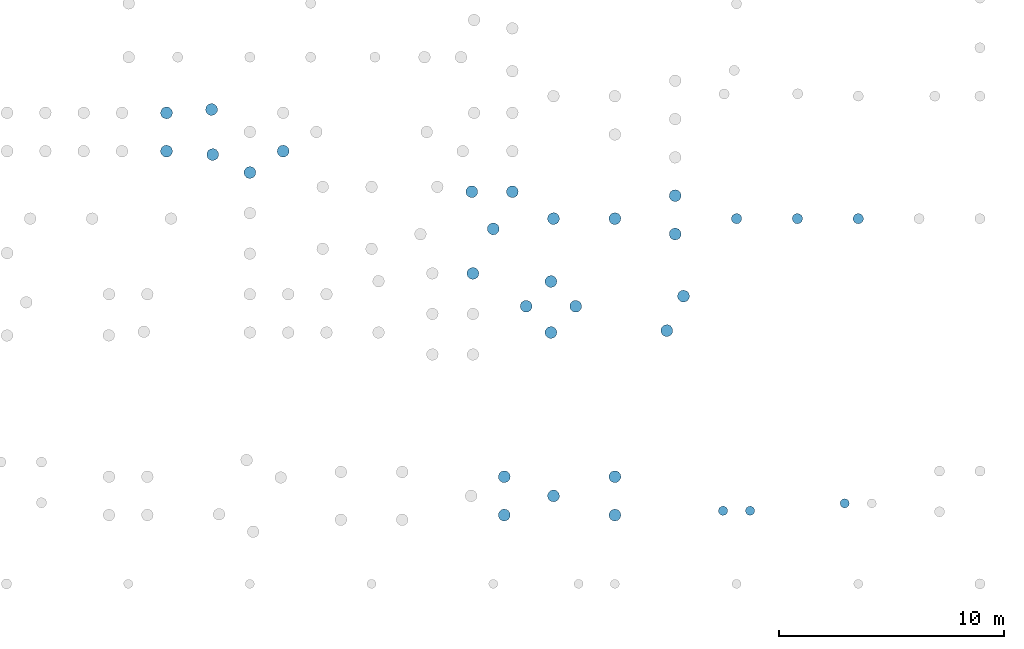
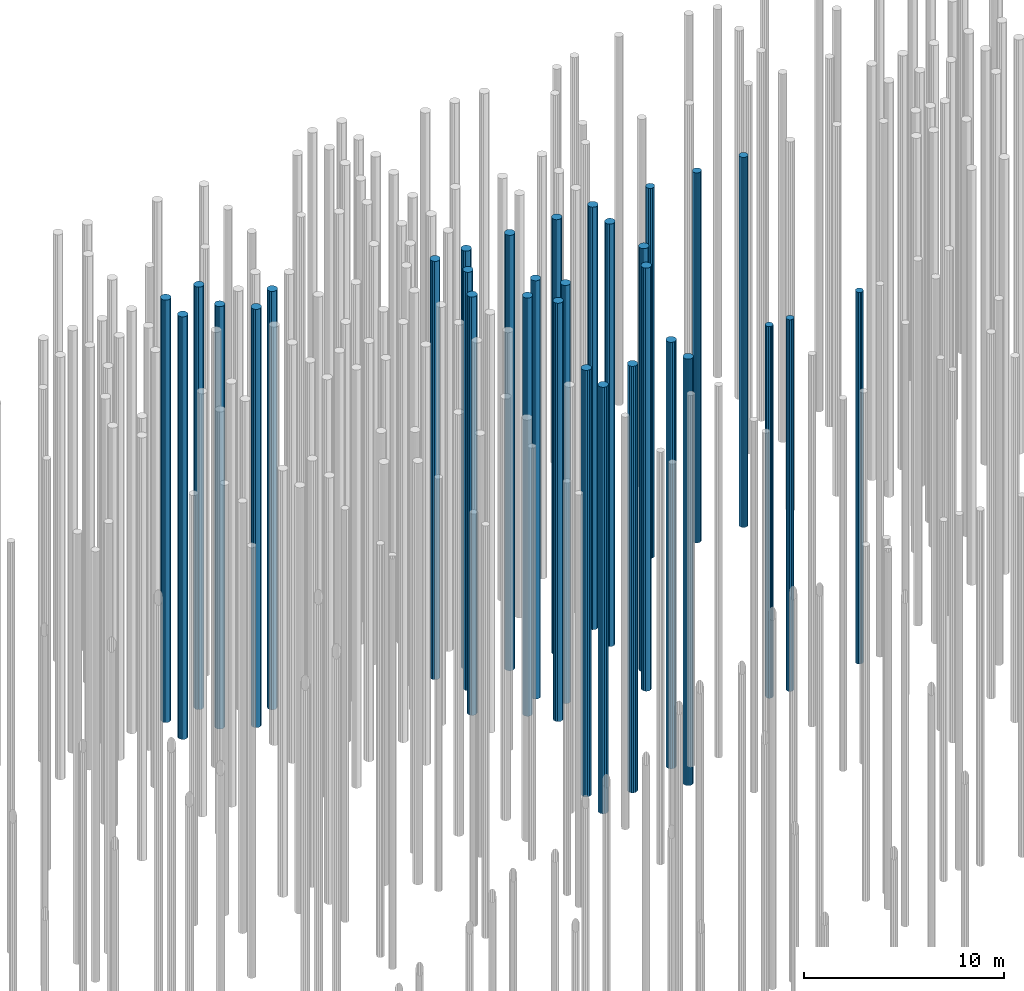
# One storey, part 8 of 20: 31 piles.
"""IFC2X3 building model written with IfcOpenShell, lengths in millimetres."""

import ifcopenshell
import ifcopenshell.guid

model = None  # the IFC model being written
_history = None  # IfcOwnerHistory: only IFC2X3 demands one
_inside = {}  # id of a spatial element -> (the spatial element, [elements in it])
_under = {}  # id of a project, library or spatial element -> (it, [spatial elements below it])
_declared = {}  # id of a project -> (the project, [libraries it declares])
_typed = {}  # id of a type object -> (the type object, [elements of that type])
_made_of = {}  # id of a material, layer set ... -> (it, [elements and type objects made of it])


def new_model(schema):
    """Start an empty IFC model of exactly this schema.

    Asked for "IFC4X3", IfcOpenShell would pick the latest addendum, in which some entities
    have other attributes; the version numbers below select the first issue.
    IFC2X3 requires an IfcOwnerHistory on every rooted entity: one is made here for all.
    """
    global model, _history
    if schema == "IFC4X3":
        model = ifcopenshell.file(schema_version=(4, 3, 0, 0))
    else:
        model = ifcopenshell.file(schema=schema)
    _inside.clear()
    _under.clear()
    _declared.clear()
    _typed.clear()
    _made_of.clear()
    _history = None
    if model.schema == "IFC2X3":
        org = make("IfcOrganization", Name="unknown")
        user = make(
            "IfcPersonAndOrganization",
            ThePerson=make("IfcPerson", FamilyName="unknown"),
            TheOrganization=org,
        )
        app = make(
            "IfcApplication",
            ApplicationDeveloper=org,
            Version="unknown",
            ApplicationFullName="unknown",
            ApplicationIdentifier="unknown",
        )
        _history = make(
            "IfcOwnerHistory",
            OwningUser=user,
            OwningApplication=app,
            ChangeAction="ADDED",
            CreationDate=0,
        )
    return model


def make(cls, **values):
    """One entity of the class cls with the attributes given. An attribute that is None is left unset."""
    return model.create_entity(
        cls, **{name: value for name, value in values.items() if value is not None}
    )


def entity(cls, *values):
    """Any entity or typed value of the class cls, its attributes in the order of the schema. None: left unset."""
    e = model.create_entity(cls)
    for i, value in enumerate(values):
        if value is not None:
            e[i] = value
    return e


def rooted(cls, **values):
    """An entity with a GlobalId (a new one), such as an element, a storey or a relation."""
    return make(cls, GlobalId=ifcopenshell.guid.new(), OwnerHistory=_history, **values)


def si_unit(unit_type, name, prefix=None):
    """IfcSIUnit, for example si_unit("LENGTHUNIT", "METRE", prefix="MILLI")."""
    return make("IfcSIUnit", UnitType=unit_type, Prefix=prefix, Name=name)


def converted_unit(unit_type, name, factor, base, dimensions=None, offset=None):
    """IfcConversionBasedUnit, such as the inch: factor (a typed value) times the base unit."""
    return make(
        "IfcConversionBasedUnit"
        if offset is None
        else "IfcConversionBasedUnitWithOffset",
        ConversionOffset=offset,
        Dimensions=None
        if dimensions is None
        else entity("IfcDimensionalExponents", *dimensions),
        UnitType=unit_type,
        Name=name,
        ConversionFactor=make(
            "IfcMeasureWithUnit", ValueComponent=factor, UnitComponent=base
        ),
    )


def derived_unit(unit_type, elements):
    """IfcDerivedUnit: a product of units, each with its exponent."""
    return make(
        "IfcDerivedUnit",
        Elements=[
            make("IfcDerivedUnitElement", Unit=unit, Exponent=power)
            for unit, power in elements
        ],
        UnitType=unit_type,
    )


def assignment(units):
    """IfcUnitAssignment: the units of a project."""
    return None if units is None else make("IfcUnitAssignment", Units=units)


def point(xyz):
    """IfcCartesianPoint."""
    return None if xyz is None else make("IfcCartesianPoint", Coordinates=xyz)


def direction(xyz):
    """IfcDirection."""
    return None if xyz is None else make("IfcDirection", DirectionRatios=xyz)


def frame(location, z_axis=None, x_axis=None):
    """IfcAxis2Placement3D, a coordinate frame: its origin and axes. An axis left out is left unset."""
    return make(
        "IfcAxis2Placement3D",
        Location=point(location),
        Axis=direction(z_axis),
        RefDirection=direction(x_axis),
    )


def origin():
    """The frame at (0, 0, 0) with its axes left unset."""
    return frame((0.0, 0.0, 0.0))


def place(relative_to, where):
    """IfcLocalPlacement: puts the frame where relative to a parent placement (None: the world)."""
    return make(
        "IfcLocalPlacement", PlacementRelTo=relative_to, RelativePlacement=where
    )


def context(
    kind, dimensions, precision=None, world=None, true_north=None, identifier=None
):
    """IfcGeometricRepresentationContext, for example the 3D "Model" context."""
    return make(
        "IfcGeometricRepresentationContext",
        ContextIdentifier=identifier,
        ContextType=kind,
        CoordinateSpaceDimension=dimensions,
        Precision=precision,
        WorldCoordinateSystem=world,
        TrueNorth=true_north,
    )


def subcontext(parent, identifier, kind, view, scale=None):
    """IfcGeometricRepresentationSubContext, for example "Body" below "Model"."""
    return make(
        "IfcGeometricRepresentationSubContext",
        ContextIdentifier=identifier,
        ContextType=kind,
        ParentContext=parent,
        TargetScale=scale,
        TargetView=view,
    )


def project(units=None, contexts=None):
    """IfcProject with its units and contexts."""
    return rooted(
        "IfcProject",
        Name="project",
        RepresentationContexts=contexts,
        UnitsInContext=assignment(units),
    )


def spatial(cls, under=None, at=None, **own):
    """A site, building, storey or space (cls), placed at a placement, below another one or the project."""
    s = rooted(cls, ObjectPlacement=at, **own)
    if under is not None:
        _under.setdefault(under.id(), (under, []))[1].append(s)
    return s


def polyline(points):
    """IfcPolyline through the points."""
    return make("IfcPolyline", Points=[point(p) for p in points])


def outline(outer, holes=None, kind="AREA"):
    """IfcArbitraryClosedProfileDef: a profile drawn as a closed curve; with holes, ...WithVoids."""
    if holes is None:
        return make("IfcArbitraryClosedProfileDef", ProfileType=kind, OuterCurve=outer)
    return make(
        "IfcArbitraryProfileDefWithVoids",
        ProfileType=kind,
        OuterCurve=outer,
        InnerCurves=holes,
    )


def extrude(swept, where, along, depth):
    """IfcExtrudedAreaSolid: the profile swept, set in the frame where, extruded along a direction by depth."""
    return make(
        "IfcExtrudedAreaSolid",
        SweptArea=swept,
        Position=where,
        ExtrudedDirection=direction(along),
        Depth=depth,
    )


def shape(context_of_items, identifier, shape_type, items):
    """IfcShapeRepresentation: the items that make up one representation, for example the "Body"."""
    return make(
        "IfcShapeRepresentation",
        ContextOfItems=context_of_items,
        RepresentationIdentifier=identifier,
        RepresentationType=shape_type,
        Items=items,
    )


def material(Name=None, Category=None):
    """IfcMaterial."""
    return make("IfcMaterial", Name=Name, Category=Category)


def made_of(thing, what):
    """Note that an element or type object is made of a material, layer set ...; save() writes the relation."""
    if what is not None:
        _made_of.setdefault(what.id(), (what, []))[1].append(thing)
    return thing


def element(
    cls,
    number,
    at=None,
    inside=None,
    cuts=None,
    type_object=None,
    material=None,
    context=None,
    identifier="Body",
    shape_type=None,
    held_by="IfcProductDefinitionShape",
    body=None,
    shapes=None,
    **own,
):
    """One element of the class cls, such as IfcWall. Its Tag is "e" and its number.

    at: its placement. inside: the storey or other place that contains it. cuts: it is an
    opening in that element (IfcRelVoidsElement). A single representation is given by context,
    identifier, shape_type and body (its items); several are given by shapes. held_by: the class
    of the entity that holds the representations. save() writes the other relations.
    """
    e = rooted(cls, Tag="e%d" % number, ObjectPlacement=at, **own)
    if body is not None:
        shapes = [shape(context, identifier, shape_type, body)]
    if shapes is not None:
        e.Representation = make(held_by, Representations=shapes)
    if inside is not None:
        _inside.setdefault(inside.id(), (inside, []))[1].append(e)
    if cuts is not None:
        rooted(
            "IfcRelVoidsElement", RelatingBuildingElement=cuts, RelatedOpeningElement=e
        )
    if type_object is not None:
        _typed.setdefault(type_object.id(), (type_object, []))[1].append(e)
    return made_of(e, material)


def aggregate(whole, parts):
    """IfcRelAggregates: a whole, such as a stair, and the parts it consists of."""
    return rooted("IfcRelAggregates", RelatingObject=whole, RelatedObjects=parts)


def save(model, path):
    """Write the relations noted so far, then the file.

    IfcRelAggregates (storeys below a building ...), IfcRelContainedInSpatialStructure (elements
    in a storey), IfcRelDefinesByType, IfcRelAssociatesMaterial and IfcRelDeclares: one each for
    every whole, place, type object, material and project.
    """
    for whole, parts in _under.values():
        aggregate(whole, parts)
    for where, things in _inside.values():
        rooted(
            "IfcRelContainedInSpatialStructure",
            RelatedElements=things,
            RelatingStructure=where,
        )
    for kind, things in _typed.values():
        rooted("IfcRelDefinesByType", RelatedObjects=things, RelatingType=kind)
    for what, things in _made_of.values():
        rooted("IfcRelAssociatesMaterial", RelatedObjects=things, RelatingMaterial=what)
    for by, libraries in _declared.values():
        rooted("IfcRelDeclares", RelatingContext=by, RelatedDefinitions=libraries)
    model.write(path)


model = new_model("IFC2X3")

# Units and contexts
model_context = context("Model", 3, precision=0.01, world=origin(), true_north=direction((6.12303176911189e-17, 1.0)))
body_context = subcontext(model_context, "Body", "Model", "MODEL_VIEW")
ifc_project = project(units=[si_unit("LENGTHUNIT", "METRE", prefix="MILLI"), si_unit("AREAUNIT", "SQUARE_METRE"), si_unit("VOLUMEUNIT", "CUBIC_METRE"), converted_unit("PLANEANGLEUNIT", "DEGREE", entity("IfcRatioMeasure", 0.0174532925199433), si_unit("PLANEANGLEUNIT", "RADIAN"), dimensions=[0, 0, 0, 0, 0, 0, 0]), si_unit("MASSUNIT", "GRAM", prefix="KILO"), derived_unit("MASSDENSITYUNIT", [(si_unit("MASSUNIT", "GRAM", prefix="KILO"), 1), (si_unit("LENGTHUNIT", "METRE"), -3)]), si_unit("TIMEUNIT", "SECOND"), si_unit("FREQUENCYUNIT", "HERTZ"), si_unit("THERMODYNAMICTEMPERATUREUNIT", "DEGREE_CELSIUS"), derived_unit("THERMALTRANSMITTANCEUNIT", [(si_unit("MASSUNIT", "GRAM", prefix="KILO"), 1), (si_unit("THERMODYNAMICTEMPERATUREUNIT", "KELVIN"), -1), (si_unit("TIMEUNIT", "SECOND"), -3)]), derived_unit("VOLUMETRICFLOWRATEUNIT", [(si_unit("LENGTHUNIT", "METRE"), 3), (si_unit("TIMEUNIT", "SECOND"), -1)]), si_unit("ELECTRICCURRENTUNIT", "AMPERE"), si_unit("ELECTRICVOLTAGEUNIT", "VOLT"), si_unit("POWERUNIT", "WATT"), si_unit("FORCEUNIT", "NEWTON", prefix="KILO"), si_unit("ILLUMINANCEUNIT", "LUX"), si_unit("LUMINOUSFLUXUNIT", "LUMEN"), si_unit("LUMINOUSINTENSITYUNIT", "CANDELA"), derived_unit("USERDEFINED", [(si_unit("MASSUNIT", "GRAM", prefix="KILO"), -1), (si_unit("LENGTHUNIT", "METRE"), -2), (si_unit("TIMEUNIT", "SECOND"), 3), (si_unit("LUMINOUSFLUXUNIT", "LUMEN"), 1)]), derived_unit("LINEARVELOCITYUNIT", [(si_unit("LENGTHUNIT", "METRE"), 1), (si_unit("TIMEUNIT", "SECOND"), -1)]), si_unit("PRESSUREUNIT", "PASCAL"), derived_unit("USERDEFINED", [(si_unit("LENGTHUNIT", "METRE"), -2), (si_unit("MASSUNIT", "GRAM", prefix="KILO"), 1), (si_unit("TIMEUNIT", "SECOND"), -2)])], contexts=[model_context])

# Site, building, storey
site_placement = place(None, origin())
site = spatial("IfcSite", under=ifc_project, at=site_placement, Name="Default", CompositionType="ELEMENT")
building_placement = place(site_placement, origin())
building = spatial("IfcBuilding", under=site, at=building_placement, Name="niet gebruiken", CompositionType="ELEMENT")
storey_placement = place(building_placement, frame((0.0, 0.0, -4000.0)))
storey = spatial("IfcBuildingStorey", under=building, at=storey_placement, Name="Level t.b.v. palenplan", CompositionType="ELEMENT", Elevation=-4000.0)

# Piles
ifc_material = material(Name="NLRS_f2_beton ihwg")
pile_1_placement = place(storey_placement, origin())
element("IfcPile", 1, at=pile_1_placement, inside=storey, material=ifc_material, Name="NLRS_17.12_SFO_TLB_funderingspaal grondverdringend_gen:Fundex_r530/650", ObjectType="NLRS_17.12_SFO_TLB_funderingspaal grondverdringend_gen:Fundex_r530/650", context=body_context, shape_type="SweptSolid", body=[
    extrude(outline(polyline([(-55.096598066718, -259.209114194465), (55.0965980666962, -259.209114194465), (155.763091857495, -214.389503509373), (229.496732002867, -132.50000000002), (263.548302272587, -27.7000427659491), (252.029976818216, 81.8895035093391), (196.933378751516, 177.31961068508), (107.785210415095, 242.089546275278), (55.0965980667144, 259.209114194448), (-55.0965980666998, 259.209114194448), (-155.763091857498, 214.389503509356), (-229.496732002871, 132.500000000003), (-263.54830227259, 27.7000427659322), (-252.02997681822, -81.889503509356), (-196.933378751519, -177.319610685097), (-107.785210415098, -242.089546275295), (-55.096598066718, -259.209114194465)])), frame((51275.0, 28881.0, -23600.0), z_axis=(0.0, 0.0, 1.0), x_axis=(0.207911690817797, -0.978147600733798, 0.0)), (0.0, 0.0, 1.0), 26070.0),
])
pile_2_placement = place(storey_placement, origin())
element("IfcPile", 2, at=pile_2_placement, inside=storey, material=ifc_material, Name="NLRS_17.12_SFO_TLB_funderingspaal grondverdringend_gen:Fundex_r530/650", ObjectType="NLRS_17.12_SFO_TLB_funderingspaal grondverdringend_gen:Fundex_r530/650", context=body_context, shape_type="SweptSolid", body=[
    extrude(outline(polyline([(-55.0965980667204, -259.209114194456), (55.0965980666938, -259.209114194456), (155.763091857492, -214.389503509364), (229.496732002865, -132.50000000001), (263.548302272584, -27.7000427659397), (252.029976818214, 81.8895035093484), (196.933378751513, 177.31961068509), (107.785210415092, 242.089546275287), (55.0965980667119, 259.209114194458), (-55.0965980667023, 259.209114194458), (-155.763091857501, 214.389503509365), (-229.496732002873, 132.500000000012), (-263.548302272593, 27.7000427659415), (-252.029976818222, -81.8895035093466), (-196.933378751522, -177.319610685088), (-107.785210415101, -242.089546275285), (-55.0965980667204, -259.209114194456)])), frame((54000.0, 29731.0, -23600.0), z_axis=(0.0, 0.0, 1.0), x_axis=(0.207911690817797, -0.978147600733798, 0.0)), (0.0, 0.0, 1.0), 26070.0),
])
pile_3_placement = place(storey_placement, origin())
element("IfcPile", 3, at=pile_3_placement, inside=storey, material=ifc_material, Name="NLRS_17.12_SFO_TLB_funderingspaal grondverdringend_gen:Fundex_r530/650", ObjectType="NLRS_17.12_SFO_TLB_funderingspaal grondverdringend_gen:Fundex_r530/650", context=body_context, shape_type="SweptSolid", body=[
    extrude(outline(polyline([(-55.0965980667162, -259.209114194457), (55.096598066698, -259.209114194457), (155.763091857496, -214.389503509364), (229.496732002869, -132.500000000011), (263.548302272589, -27.7000427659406), (252.029976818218, 81.8895035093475), (196.933378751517, 177.319610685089), (107.785210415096, 242.089546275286), (55.0965980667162, 259.209114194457), (-55.096598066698, 259.209114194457), (-155.763091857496, 214.389503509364), (-229.496732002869, 132.500000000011), (-263.548302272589, 27.7000427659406), (-252.029976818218, -81.8895035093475), (-196.933378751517, -177.319610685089), (-107.785210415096, -242.089546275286), (-55.0965980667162, -259.209114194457)])), frame((54000.0, 28031.0, -23600.0), z_axis=(0.0, 0.0, 1.0), x_axis=(0.207911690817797, -0.978147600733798, 0.0)), (0.0, 0.0, 1.0), 26070.0),
])
pile_4_placement = place(storey_placement, origin())
element("IfcPile", 4, at=pile_4_placement, inside=storey, material=ifc_material, Name="NLRS_17.12_SFO_TLB_funderingspaal grondverdringend_gen:Fundex_r530/650", ObjectType="NLRS_17.12_SFO_TLB_funderingspaal grondverdringend_gen:Fundex_r530/650", context=body_context, shape_type="SweptSolid", body=[
    extrude(outline(polyline([(-55.0965980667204, -259.209114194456), (55.0965980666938, -259.209114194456), (155.763091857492, -214.389503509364), (229.496732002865, -132.50000000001), (263.548302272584, -27.7000427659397), (252.029976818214, 81.8895035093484), (196.933378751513, 177.31961068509), (107.785210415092, 242.089546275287), (55.0965980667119, 259.209114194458), (-55.0965980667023, 259.209114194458), (-155.763091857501, 214.389503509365), (-229.496732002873, 132.500000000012), (-263.548302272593, 27.7000427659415), (-252.029976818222, -81.8895035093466), (-196.933378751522, -177.319610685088), (-107.785210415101, -242.089546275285), (-55.0965980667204, -259.209114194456)])), frame((49090.0, 28031.0, -23600.0), z_axis=(0.0, 0.0, 1.0), x_axis=(0.207911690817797, -0.978147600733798, 0.0)), (0.0, 0.0, 1.0), 26070.0),
])
pile_5_placement = place(storey_placement, origin())
element("IfcPile", 5, at=pile_5_placement, inside=storey, material=ifc_material, Name="NLRS_17.12_SFO_TLB_funderingspaal grondverdringend_gen:Fundex_r530/650", ObjectType="NLRS_17.12_SFO_TLB_funderingspaal grondverdringend_gen:Fundex_r530/650", context=body_context, shape_type="SweptSolid", body=[
    extrude(outline(polyline([(-55.0965980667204, -259.209114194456), (55.0965980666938, -259.209114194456), (155.763091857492, -214.389503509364), (229.496732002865, -132.50000000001), (263.548302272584, -27.7000427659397), (252.029976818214, 81.8895035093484), (196.933378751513, 177.31961068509), (107.785210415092, 242.089546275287), (55.0965980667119, 259.209114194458), (-55.0965980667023, 259.209114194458), (-155.763091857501, 214.389503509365), (-229.496732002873, 132.500000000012), (-263.548302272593, 27.7000427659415), (-252.029976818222, -81.8895035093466), (-196.933378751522, -177.319610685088), (-107.785210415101, -242.089546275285), (-55.0965980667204, -259.209114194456)])), frame((49091.0, 29731.0, -23600.0), z_axis=(0.0, 0.0, 1.0), x_axis=(0.207911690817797, -0.978147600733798, 0.0)), (0.0, 0.0, 1.0), 26070.0),
])
pile_6_placement = place(storey_placement, origin())
element("IfcPile", 6, at=pile_6_placement, inside=storey, material=ifc_material, Name="NLRS_17.12_SFO_TLB_funderingspaal grondverdringend_gen:Fundex_r530/650", ObjectType="NLRS_17.12_SFO_TLB_funderingspaal grondverdringend_gen:Fundex_r530/650", context=body_context, shape_type="SweptSolid", body=[
    extrude(outline(polyline([(-55.0965980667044, -259.20911419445), (55.0965980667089, -259.20911419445), (155.763091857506, -214.38950350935), (229.496732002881, -132.499999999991), (263.548302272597, -27.7000427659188), (252.029976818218, 81.8895035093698), (196.933378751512, 177.319610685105), (107.785210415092, 242.089546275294), (55.096598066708, 259.209114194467), (-55.0965980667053, 259.209114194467), (-155.763091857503, 214.389503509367), (-229.496732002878, 132.500000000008), (-263.548302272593, 27.7000427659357), (-252.029976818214, -81.8895035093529), (-196.933378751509, -177.319610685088), (-107.78521041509, -242.089546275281), (-55.0965980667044, -259.20911419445)])), frame((56305.0, 36216.0, -23600.0), z_axis=(0.0, 0.0, 1.0), x_axis=(-0.978147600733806, -0.207911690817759, 0.0)), (0.0, 0.0, 1.0), 25870.0),
])
pile_7_placement = place(storey_placement, origin())
element("IfcPile", 7, at=pile_7_placement, inside=storey, material=ifc_material, Name="NLRS_17.12_SFO_TLB_funderingspaal grondverdringend_gen:Fundex_r530/650", ObjectType="NLRS_17.12_SFO_TLB_funderingspaal grondverdringend_gen:Fundex_r530/650", context=body_context, shape_type="SweptSolid", body=[
    extrude(outline(polyline([(-55.0965980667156, -259.209114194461), (55.0965980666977, -259.209114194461), (155.763091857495, -214.389503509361), (229.49673200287, -132.500000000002), (263.548302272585, -27.7000427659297), (252.029976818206, 81.8895035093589), (196.933378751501, 177.319610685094), (107.785210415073, 242.089546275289), (55.0965980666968, 259.209114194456), (-55.0965980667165, 259.209114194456), (-155.763091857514, 214.389503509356), (-229.496732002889, 132.499999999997), (-263.548302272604, 27.7000427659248), (-252.029976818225, -81.8895035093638), (-196.93337875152, -177.319610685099), (-107.785210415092, -242.089546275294), (-55.0965980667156, -259.209114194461)])), frame((57045.0, 37746.0, -23600.0), z_axis=(0.0, 0.0, 1.0), x_axis=(-0.978147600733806, -0.207911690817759, 0.0)), (0.0, 0.0, 1.0), 25870.0),
])
pile_8_placement = place(storey_placement, origin())
element("IfcPile", 8, at=pile_8_placement, inside=storey, material=ifc_material, Name="NLRS_17.12_SFO_TLB_funderingspaal grondverdringend_gen:Fundex_r530/650", ObjectType="NLRS_17.12_SFO_TLB_funderingspaal grondverdringend_gen:Fundex_r530/650", context=body_context, shape_type="SweptSolid", body=[
    extrude(outline(polyline([(-55.0965980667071, -259.209114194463), (55.0965980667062, -259.209114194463), (155.763091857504, -214.389503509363), (229.496732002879, -132.500000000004), (263.548302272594, -27.7000427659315), (252.029976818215, 81.8895035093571), (196.93337875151, 177.319610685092), (107.78521041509, 242.089546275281), (55.0965980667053, 259.209114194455), (-55.096598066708, 259.209114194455), (-155.763091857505, 214.389503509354), (-229.49673200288, 132.499999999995), (-263.548302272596, 27.700042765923), (-252.029976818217, -81.8895035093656), (-196.933378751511, -177.3196106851), (-107.785210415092, -242.089546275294), (-55.0965980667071, -259.209114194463)])), frame((47700.0, 38756.0, -23600.0), z_axis=(0.0, 0.0, 1.0), x_axis=(-0.978147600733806, -0.207911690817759, 0.0)), (0.0, 0.0, 1.0), 25570.0),
])
pile_9_placement = place(storey_placement, origin())
element("IfcPile", 9, at=pile_9_placement, inside=storey, material=ifc_material, Name="NLRS_17.12_SFO_TLB_funderingspaal grondverdringend_gen:Fundex_r530/650", ObjectType="NLRS_17.12_SFO_TLB_funderingspaal grondverdringend_gen:Fundex_r530/650", context=body_context, shape_type="SweptSolid", body=[
    extrude(outline(polyline([(-55.0965980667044, -259.20911419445), (55.0965980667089, -259.20911419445), (155.763091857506, -214.38950350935), (229.496732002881, -132.499999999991), (263.548302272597, -27.7000427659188), (252.029976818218, 81.8895035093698), (196.933378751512, 177.319610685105), (107.785210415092, 242.089546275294), (55.096598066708, 259.209114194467), (-55.0965980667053, 259.209114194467), (-155.763091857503, 214.389503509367), (-229.496732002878, 132.500000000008), (-263.548302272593, 27.7000427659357), (-252.029976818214, -81.8895035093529), (-196.933378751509, -177.319610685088), (-107.78521041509, -242.089546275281), (-55.0965980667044, -259.20911419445)])), frame((50060.0, 37296.0, -23600.0), z_axis=(0.0, 0.0, 1.0), x_axis=(-0.978147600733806, -0.207911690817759, 0.0)), (0.0, 0.0, 1.0), 25570.0),
])
pile_10_placement = place(storey_placement, origin())
element("IfcPile", 10, at=pile_10_placement, inside=storey, material=ifc_material, Name="NLRS_17.12_SFO_TLB_funderingspaal grondverdringend_gen:Fundex_r530/650", ObjectType="NLRS_17.12_SFO_TLB_funderingspaal grondverdringend_gen:Fundex_r530/650", context=body_context, shape_type="SweptSolid", body=[
    extrude(outline(polyline([(-55.0965980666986, -259.209114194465), (55.0965980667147, -259.209114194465), (155.763091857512, -214.389503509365), (229.496732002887, -132.500000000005), (263.548302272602, -27.7000427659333), (252.029976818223, 81.8895035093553), (196.933378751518, 177.31961068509), (107.785210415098, 242.089546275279), (55.0965980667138, 259.209114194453), (-55.0965980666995, 259.209114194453), (-155.763091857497, 214.389503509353), (-229.496732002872, 132.499999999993), (-263.548302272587, 27.7000427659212), (-252.029976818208, -81.8895035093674), (-196.933378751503, -177.319610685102), (-107.785210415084, -242.089546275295), (-55.0965980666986, -259.209114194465)])), frame((51160.0, 38396.0, -23600.0), z_axis=(0.0, 0.0, 1.0), x_axis=(-0.978147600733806, -0.207911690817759, 0.0)), (0.0, 0.0, 1.0), 25570.0),
])
pile_11_placement = place(storey_placement, origin())
element("IfcPile", 11, at=pile_11_placement, inside=storey, material=ifc_material, Name="NLRS_17.12_SFO_TLB_funderingspaal grondverdringend_gen:Fundex_r530/650", ObjectType="NLRS_17.12_SFO_TLB_funderingspaal grondverdringend_gen:Fundex_r530/650", context=body_context, shape_type="SweptSolid", body=[
    extrude(outline(polyline([(-55.0965980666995, -259.209114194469), (55.0965980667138, -259.209114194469), (155.763091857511, -214.389503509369), (229.496732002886, -132.50000000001), (263.548302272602, -27.7000427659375), (252.029976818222, 81.8895035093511), (196.933378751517, 177.319610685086), (107.785210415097, 242.089546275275), (55.0965980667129, 259.209114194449), (-55.0965980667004, 259.209114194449), (-155.763091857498, 214.389503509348), (-229.496732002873, 132.499999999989), (-263.548302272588, 27.700042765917), (-252.029976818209, -81.8895035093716), (-196.933378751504, -177.319610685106), (-107.785210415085, -242.0895462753), (-55.0965980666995, -259.209114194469)])), frame((52260.0, 37296.0, -23600.0), z_axis=(0.0, 0.0, 1.0), x_axis=(-0.978147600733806, -0.207911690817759, 0.0)), (0.0, 0.0, 1.0), 25570.0),
])
pile_12_placement = place(storey_placement, origin())
element("IfcPile", 12, at=pile_12_placement, inside=storey, material=ifc_material, Name="NLRS_17.12_SFO_TLB_funderingspaal grondverdringend_gen:Fundex_r530/650", ObjectType="NLRS_17.12_SFO_TLB_funderingspaal grondverdringend_gen:Fundex_r530/650", context=body_context, shape_type="SweptSolid", body=[
    extrude(outline(polyline([(-55.0965980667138, -259.209114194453), (55.0965980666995, -259.209114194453), (155.763091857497, -214.389503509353), (229.496732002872, -132.499999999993), (263.548302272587, -27.7000427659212), (252.029976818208, 81.8895035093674), (196.933378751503, 177.319610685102), (107.785210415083, 242.089546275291), (55.0965980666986, 259.209114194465), (-55.0965980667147, 259.209114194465), (-155.763091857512, 214.389503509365), (-229.496732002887, 132.500000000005), (-263.548302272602, 27.7000427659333), (-252.029976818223, -81.8895035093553), (-196.933378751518, -177.31961068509), (-107.785210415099, -242.089546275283), (-55.0965980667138, -259.209114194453)])), frame((51160.0, 36131.0, -23600.0), z_axis=(0.0, 0.0, 1.0), x_axis=(-0.978147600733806, -0.207911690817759, 0.0)), (0.0, 0.0, 1.0), 25570.0),
])
pile_13_placement = place(storey_placement, origin())
element("IfcPile", 13, at=pile_13_placement, inside=storey, material=ifc_material, Name="NLRS_17.12_SFO_TLB_funderingspaal grondverdringend_gen:Fundex_r530/650", ObjectType="NLRS_17.12_SFO_TLB_funderingspaal grondverdringend_gen:Fundex_r530/650", context=body_context, shape_type="SweptSolid", body=[
    extrude(outline(polyline([(-55.0965980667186, -259.209114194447), (55.0965980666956, -259.209114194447), (155.763091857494, -214.389503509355), (229.496732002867, -132.500000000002), (263.548302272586, -27.7000427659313), (252.029976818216, 81.8895035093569), (196.933378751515, 177.319610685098), (107.785210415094, 242.089546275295), (55.0965980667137, 259.209114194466), (-55.0965980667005, 259.209114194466), (-155.763091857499, 214.389503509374), (-229.496732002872, 132.500000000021), (-263.548302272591, 27.70004276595), (-252.02997681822, -81.8895035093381), (-196.93337875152, -177.319610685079), (-107.785210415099, -242.089546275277), (-55.0965980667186, -259.209114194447)])), frame((37800.0, 43231.0, -23600.0), z_axis=(0.0, 0.0, 1.0), x_axis=(-0.978147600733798, -0.207911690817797, 0.0)), (0.0, 0.0, 1.0), 25570.0),
])
pile_14_placement = place(storey_placement, origin())
element("IfcPile", 14, at=pile_14_placement, inside=storey, material=ifc_material, Name="NLRS_17.12_SFO_TLB_funderingspaal grondverdringend_gen:Fundex_r530/650", ObjectType="NLRS_17.12_SFO_TLB_funderingspaal grondverdringend_gen:Fundex_r530/650", context=body_context, shape_type="SweptSolid", body=[
    extrude(outline(polyline([(-55.0965980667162, -259.209114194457), (55.096598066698, -259.209114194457), (155.763091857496, -214.389503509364), (229.496732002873, -132.500000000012), (263.548302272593, -27.7000427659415), (252.029976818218, 81.8895035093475), (196.933378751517, 177.319610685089), (107.785210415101, 242.089546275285), (55.0965980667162, 259.209114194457), (-55.096598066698, 259.209114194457), (-155.763091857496, 214.389503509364), (-229.496732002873, 132.500000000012), (-263.548302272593, 27.7000427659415), (-252.029976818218, -81.8895035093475), (-196.933378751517, -177.319610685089), (-107.785210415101, -242.089546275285), (-55.0965980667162, -259.209114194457)])), frame((48600.0, 40731.0, -23600.0), z_axis=(0.0, 0.0, 1.0), x_axis=(-0.978147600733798, -0.207911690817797, 0.0)), (0.0, 0.0, 1.0), 25570.0),
])
pile_15_placement = place(storey_placement, origin())
element("IfcPile", 15, at=pile_15_placement, inside=storey, material=ifc_material, Name="NLRS_17.12_SFO_TLB_funderingspaal grondverdringend_gen:Fundex_r530/650", ObjectType="NLRS_17.12_SFO_TLB_funderingspaal grondverdringend_gen:Fundex_r530/650", context=body_context, shape_type="SweptSolid", body=[
    extrude(outline(polyline([(-55.0965980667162, -259.209114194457), (55.096598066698, -259.209114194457), (155.763091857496, -214.389503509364), (229.496732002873, -132.500000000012), (263.548302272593, -27.7000427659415), (252.029976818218, 81.8895035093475), (196.933378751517, 177.319610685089), (107.785210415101, 242.089546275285), (55.0965980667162, 259.209114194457), (-55.096598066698, 259.209114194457), (-155.763091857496, 214.389503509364), (-229.496732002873, 132.500000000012), (-263.548302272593, 27.7000427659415), (-252.029976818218, -81.8895035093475), (-196.933378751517, -177.319610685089), (-107.785210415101, -242.089546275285), (-55.0965980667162, -259.209114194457)])), frame((49450.0, 42381.0, -23600.0), z_axis=(0.0, 0.0, 1.0), x_axis=(-0.978147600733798, -0.207911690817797, 0.0)), (0.0, 0.0, 1.0), 25570.0),
])
pile_16_placement = place(storey_placement, origin())
element("IfcPile", 16, at=pile_16_placement, inside=storey, material=ifc_material, Name="NLRS_17.12_SFO_TLB_funderingspaal grondverdringend_gen:Fundex_r530/650", ObjectType="NLRS_17.12_SFO_TLB_funderingspaal grondverdringend_gen:Fundex_r530/650", context=body_context, shape_type="SweptSolid", body=[
    extrude(outline(polyline([(-55.0965980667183, -259.209114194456), (55.0965980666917, -259.209114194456), (155.763091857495, -214.389503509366), (229.496732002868, -132.500000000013), (263.548302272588, -27.7000427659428), (252.029976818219, 81.8895035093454), (196.933378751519, 177.319610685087), (107.785210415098, 242.089546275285), (55.0965980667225, 259.209114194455), (-55.0965980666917, 259.209114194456), (-155.763091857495, 214.389503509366), (-229.496732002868, 132.500000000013), (-263.548302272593, 27.7000427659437), (-252.029976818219, -81.8895035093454), (-196.933378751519, -177.319610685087), (-107.785210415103, -242.089546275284), (-55.0965980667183, -259.209114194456)])), frame((34100.0, 44181.0, -23600.0), z_axis=(0.0, 0.0, 1.0), x_axis=(-0.978147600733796, -0.207911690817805, 0.0)), (0.0, 0.0, 1.0), 25828.0),
])
pile_17_placement = place(storey_placement, origin())
element("IfcPile", 17, at=pile_17_placement, inside=storey, material=ifc_material, Name="NLRS_17.12_SFO_TLB_funderingspaal grondverdringend_gen:Fundex_r530/650", ObjectType="NLRS_17.12_SFO_TLB_funderingspaal grondverdringend_gen:Fundex_r530/650", context=body_context, shape_type="SweptSolid", body=[
    extrude(outline(polyline([(-55.0965980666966, -259.209114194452), (55.0965980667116, -259.209114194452), (155.763091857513, -214.389503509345), (229.49673200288, -132.499999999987), (263.548302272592, -27.700042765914), (252.029976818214, 81.8895035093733), (196.933378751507, 177.319610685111), (107.785210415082, 242.089546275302), (55.0965980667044, 259.209114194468), (-55.0965980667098, 259.209114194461), (-155.763091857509, 214.389503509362), (-229.496732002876, 132.500000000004), (-263.548302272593, 27.7000427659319), (-252.029976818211, -81.8895035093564), (-196.933378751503, -177.319610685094), (-107.785210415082, -242.089546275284), (-55.0965980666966, -259.209114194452)])), frame((34100.0, 45881.0, -23600.0), z_axis=(0.0, 0.0, 1.0), x_axis=(-0.978147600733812, -0.207911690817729, 0.0)), (0.0, 0.0, 1.0), 25828.0),
])
pile_18_placement = place(storey_placement, origin())
element("IfcPile", 18, at=pile_18_placement, inside=storey, material=ifc_material, Name="NLRS_17.12_SFO_TLB_funderingspaal grondverdringend_gen:Fundex_r530/650", ObjectType="NLRS_17.12_SFO_TLB_funderingspaal grondverdringend_gen:Fundex_r530/650", context=body_context, shape_type="SweptSolid", body=[
    extrude(outline(polyline([(-55.0965980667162, -259.209114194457), (55.096598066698, -259.209114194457), (155.763091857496, -214.389503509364), (229.496732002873, -132.500000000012), (263.548302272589, -27.7000427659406), (252.029976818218, 81.8895035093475), (196.933378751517, 177.319610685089), (107.785210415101, 242.089546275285), (55.0965980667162, 259.209114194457), (-55.096598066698, 259.209114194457), (-155.763091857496, 214.389503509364), (-229.496732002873, 132.500000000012), (-263.548302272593, 27.7000427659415), (-252.029976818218, -81.8895035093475), (-196.933378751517, -177.319610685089), (-107.785210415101, -242.089546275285), (-55.0965980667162, -259.209114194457)])), frame((39275.0, 44181.0, -23600.0), z_axis=(0.0, 0.0, 1.0), x_axis=(-0.978147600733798, -0.207911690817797, 0.0)), (0.0, 0.0, 1.0), 25570.0),
])
pile_19_placement = place(storey_placement, origin())
element("IfcPile", 19, at=pile_19_placement, inside=storey, material=ifc_material, Name="NLRS_17.12_SFO_TLB_funderingspaal grondverdringend_gen:Fundex_r530/650", ObjectType="NLRS_17.12_SFO_TLB_funderingspaal grondverdringend_gen:Fundex_r530/650", context=body_context, shape_type="SweptSolid", body=[
    extrude(outline(polyline([(-55.0965980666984, -259.209114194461), (55.0965980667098, -259.209114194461), (155.763091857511, -214.389503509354), (229.496732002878, -132.499999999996), (263.548302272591, -27.7000427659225), (252.029976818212, 81.8895035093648), (196.933378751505, 177.319610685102), (107.78521041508, 242.089546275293), (55.0965980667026, 259.20911419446), (-55.0965980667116, 259.209114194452), (-155.763091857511, 214.389503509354), (-229.496732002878, 132.499999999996), (-263.548302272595, 27.7000427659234), (-252.029976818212, -81.8895035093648), (-196.933378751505, -177.319610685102), (-107.785210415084, -242.089546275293), (-55.0965980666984, -259.209114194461)])), frame((36100.0, 46031.0, -23600.0), z_axis=(0.0, 0.0, 1.0), x_axis=(-0.978147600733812, -0.207911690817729, 0.0)), (0.0, 0.0, 1.0), 25828.0),
])
pile_20_placement = place(storey_placement, origin())
element("IfcPile", 20, at=pile_20_placement, inside=storey, material=ifc_material, Name="NLRS_17.12_SFO_TLB_funderingspaal grondverdringend_gen:Fundex_r530/650", ObjectType="NLRS_17.12_SFO_TLB_funderingspaal grondverdringend_gen:Fundex_r530/650", context=body_context, shape_type="SweptSolid", body=[
    extrude(outline(polyline([(-55.0965980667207, -259.209114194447), (55.0965980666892, -259.209114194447), (155.763091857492, -214.389503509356), (229.496732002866, -132.500000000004), (263.548302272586, -27.7000427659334), (252.029976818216, 81.8895035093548), (196.933378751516, 177.319610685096), (107.785210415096, 242.089546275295), (55.0965980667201, 259.209114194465), (-55.0965980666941, 259.209114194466), (-155.763091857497, 214.389503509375), (-229.496732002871, 132.500000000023), (-263.548302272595, 27.7000427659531), (-252.029976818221, -81.8895035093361), (-196.933378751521, -177.319610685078), (-107.785210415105, -242.089546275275), (-55.0965980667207, -259.209114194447)])), frame((36150.0, 44031.0, -23600.0), z_axis=(0.0, 0.0, 1.0), x_axis=(-0.978147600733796, -0.207911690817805, 0.0)), (0.0, 0.0, 1.0), 25828.0),
])
pile_21_placement = place(storey_placement, origin())
element("IfcPile", 21, at=pile_21_placement, inside=storey, material=ifc_material, Name="NLRS_17.12_SFO_TLB_funderingspaal grondverdringend_gen:Fundex_r530/650", ObjectType="NLRS_17.12_SFO_TLB_funderingspaal grondverdringend_gen:Fundex_r530/650", context=body_context, shape_type="SweptSolid", body=[
    extrude(outline(polyline([(-55.0965980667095, -259.209114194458), (55.0965980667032, -259.209114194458), (155.763091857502, -214.389503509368), (229.496732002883, -132.50000000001), (263.548302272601, -27.7000427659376), (252.029976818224, 81.889503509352), (196.933378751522, 177.319610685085), (107.785210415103, 242.089546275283), (55.0965980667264, 259.209114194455), (-55.0965980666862, 259.209114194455), (-155.763091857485, 214.389503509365), (-229.496732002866, 132.500000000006), (-263.548302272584, 27.700042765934), (-252.029976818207, -81.8895035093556), (-196.933378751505, -177.319610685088), (-107.785210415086, -242.089546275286), (-55.0965980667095, -259.209114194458)])), frame((56675.0, 42204.0, -23600.0), z_axis=(0.0, 0.0, 1.0), x_axis=(-0.978147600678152, -0.207911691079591, 0.0)), (0.0, 0.0, 1.0), 25828.0),
])
pile_22_placement = place(storey_placement, origin())
element("IfcPile", 22, at=pile_22_placement, inside=storey, material=ifc_material, Name="NLRS_17.12_SFO_TLB_funderingspaal grondverdringend_gen:Fundex_r530/650", ObjectType="NLRS_17.12_SFO_TLB_funderingspaal grondverdringend_gen:Fundex_r530/650", context=body_context, shape_type="SweptSolid", body=[
    extrude(outline(polyline([(-55.0965980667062, -259.20911419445), (55.0965980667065, -259.20911419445), (155.76309185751, -214.38950350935), (229.496732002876, -132.499999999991), (263.548302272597, -27.700042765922), (252.029976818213, 81.8895035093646), (196.933378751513, 177.319610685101), (107.785210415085, 242.089546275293), (55.0965980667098, 259.209114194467), (-55.0965980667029, 259.209114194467), (-155.763091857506, 214.389503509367), (-229.496732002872, 132.500000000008), (-263.548302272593, 27.700042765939), (-252.029976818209, -81.8895035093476), (-196.93337875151, -177.319610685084), (-107.785210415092, -242.089546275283), (-55.0965980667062, -259.20911419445)])), frame((56675.0, 40504.0, -23600.0), z_axis=(0.0, 0.0, 1.0), x_axis=(-0.978147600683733, -0.207911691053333, 0.0)), (0.0, 0.0, 1.0), 25828.0),
])
pile_23_placement = place(storey_placement, origin())
element("IfcPile", 23, at=pile_23_placement, inside=storey, material=ifc_material, Name="NLRS_17.12_SFO_TLB_funderingspaal grondverdringend_gen:Fundex_r530/650", ObjectType="NLRS_17.12_SFO_TLB_funderingspaal grondverdringend_gen:Fundex_r530/650", context=body_context, shape_type="SweptSolid", body=[
    extrude(outline(polyline([(-55.0965980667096, -259.209114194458), (55.0965980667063, -259.209114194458), (155.76309185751, -214.389503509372), (229.496732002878, -132.500000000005), (263.5483022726, -27.7000427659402), (252.029976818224, 81.8895035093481), (196.93337875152, 177.319610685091), (107.785210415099, 242.08954627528), (55.0965980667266, 259.209114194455), (-55.0965980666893, 259.209114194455), (-155.763091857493, 214.389503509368), (-229.496732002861, 132.500000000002), (-263.548302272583, 27.7000427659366), (-252.029976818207, -81.8895035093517), (-196.933378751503, -177.319610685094), (-107.785210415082, -242.089546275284), (-55.0965980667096, -259.209114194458)])), frame((54000.0, 41186.0, -23600.0), z_axis=(0.0, 0.0, 1.0), x_axis=(-0.978147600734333, -0.207911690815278, 0.0)), (0.0, 0.0, 1.0), 26618.0),
])
pile_24_placement = place(storey_placement, origin())
element("IfcPile", 24, at=pile_24_placement, inside=storey, material=ifc_material, Name="NLRS_17.12_SFO_TLB_funderingspaal grondverdringend_gen:Fundex_r530/650", ObjectType="NLRS_17.12_SFO_TLB_funderingspaal grondverdringend_gen:Fundex_r530/650", context=body_context, shape_type="SweptSolid", body=[
    extrude(outline(polyline([(-55.0965980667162, -259.209114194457), (55.096598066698, -259.209114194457), (155.763091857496, -214.389503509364), (229.496732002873, -132.500000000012), (263.548302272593, -27.7000427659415), (252.029976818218, 81.8895035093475), (196.933378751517, 177.319610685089), (107.785210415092, 242.089546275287), (55.0965980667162, 259.209114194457), (-55.096598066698, 259.209114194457), (-155.763091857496, 214.389503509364), (-229.496732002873, 132.500000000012), (-263.548302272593, 27.7000427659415), (-252.029976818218, -81.8895035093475), (-196.933378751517, -177.319610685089), (-107.785210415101, -242.089546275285), (-55.0965980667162, -259.209114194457)])), frame((51275.0, 41186.0, -23600.0), z_axis=(0.0, 0.0, 1.0), x_axis=(-0.978147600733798, -0.207911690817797, 0.0)), (0.0, 0.0, 1.0), 26618.0),
])
pile_25_placement = place(storey_placement, origin())
element("IfcPile", 25, at=pile_25_placement, inside=storey, material=ifc_material, Name="NLRS_17.12_SFO_TLB_funderingspaal grondverdringend_gen:Fundex_r410/500", ObjectType="NLRS_17.12_SFO_TLB_funderingspaal grondverdringend_gen:Fundex_r410/500", context=body_context, shape_type="SweptSolid", body=[
    extrude(outline(polyline([(-49.0597111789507, -199.043072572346), (49.0597111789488, -199.043072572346), (135.940144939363, -153.444703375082), (191.678329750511, -72.6940018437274), (203.505319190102, 24.7100194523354), (168.711692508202, 116.453273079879), (95.268250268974, 181.518485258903), (49.0597111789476, 199.043072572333), (-49.0597111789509, 199.043072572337), (-135.940144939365, 153.444703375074), (-191.678329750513, 72.694001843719), (-203.505319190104, -24.7100194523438), (-168.711692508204, -116.453273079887), (-95.2682502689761, -181.518485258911), (-49.0597111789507, -199.043072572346)])), frame((58800.0, 28221.0, -20100.0), z_axis=(0.0, 0.0, 1.0), x_axis=(-0.970941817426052, -0.239315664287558, 0.0)), (0.0, 0.0, 1.0), 22720.0),
])
pile_26_placement = place(storey_placement, origin())
element("IfcPile", 26, at=pile_26_placement, inside=storey, material=ifc_material, Name="NLRS_17.12_SFO_TLB_funderingspaal grondverdringend_gen:Fundex_r410/500", ObjectType="NLRS_17.12_SFO_TLB_funderingspaal grondverdringend_gen:Fundex_r410/500", context=body_context, shape_type="SweptSolid", body=[
    extrude(outline(polyline([(-49.0597111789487, -199.043072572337), (49.0597111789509, -199.043072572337), (135.940144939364, -153.444703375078), (191.678329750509, -72.694001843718), (203.5053191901, 24.7100194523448), (168.711692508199, 116.453273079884), (95.2682502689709, 181.518485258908), (49.0597111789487, 199.043072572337), (-49.0597111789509, 199.043072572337), (-135.940144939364, 153.444703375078), (-191.678329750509, 72.694001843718), (-203.5053191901, -24.7100194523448), (-168.711692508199, -116.453273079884), (-95.2682502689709, -181.518485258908), (-49.0597111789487, -199.043072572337)])), frame((60000.0, 28221.0, -20100.0), z_axis=(0.0, 0.0, 1.0), x_axis=(0.239315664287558, -0.970941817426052, 0.0)), (0.0, 0.0, 1.0), 22720.0),
])
pile_27_placement = place(storey_placement, origin())
element("IfcPile", 27, at=pile_27_placement, inside=storey, material=ifc_material, Name="NLRS_17.12_SFO_TLB_funderingspaal grondverdringend_gen:Fundex_r410/500", ObjectType="NLRS_17.12_SFO_TLB_funderingspaal grondverdringend_gen:Fundex_r410/500", context=body_context, shape_type="SweptSolid", body=[
    extrude(outline(polyline([(-49.0597111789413, -199.043072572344), (49.0597111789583, -199.043072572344), (135.940144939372, -153.44470337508), (191.67832975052, -72.6940018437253), (203.505319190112, 24.7100194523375), (168.711692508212, 116.453273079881), (95.2682502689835, 181.518485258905), (49.0597111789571, 199.043072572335), (-49.0597111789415, 199.04307257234), (-135.940144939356, 153.444703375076), (-191.678329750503, 72.6940018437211), (-203.505319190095, -24.7100194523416), (-168.711692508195, -116.453273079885), (-95.2682502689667, -181.518485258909), (-49.0597111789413, -199.043072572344)])), frame((64200.0, 28551.0, -20100.0), z_axis=(0.0, 0.0, 1.0), x_axis=(-0.970941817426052, -0.239315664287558, 0.0)), (0.0, 0.0, 1.0), 22720.0),
])
pile_28_placement = place(storey_placement, origin())
element("IfcPile", 28, at=pile_28_placement, inside=storey, material=ifc_material, Name="NLRS_17.12_SFO_TLB_funderingspaal grondverdringend_gen:Fundex_r460/560", ObjectType="NLRS_17.12_SFO_TLB_funderingspaal grondverdringend_gen:Fundex_r460/560", context=body_context, shape_type="SweptSolid", body=[
    extrude(outline(polyline([(-25.7518295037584, -228.553808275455), (25.7518295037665, -228.553808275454), (122.367377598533, -194.746565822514), (194.746565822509, -122.367377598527), (228.553808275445, -25.7518295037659), (217.093165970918, 75.9641842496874), (162.6345596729, 162.634559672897), (75.9641842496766, 217.093165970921), (25.7518295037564, 228.553808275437), (-25.7518295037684, 228.553808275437), (-122.367377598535, 194.746565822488), (-194.746565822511, 122.36737759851), (-228.553808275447, 25.7518295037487), (-217.09316597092, -75.9641842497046), (-162.634559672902, -162.634559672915), (-75.9641842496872, -217.093165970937), (-25.7518295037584, -228.553808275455)])), frame((59400.0, 41186.0, -19600.0), z_axis=(0.0, 0.0, 1.0), x_axis=(0.111964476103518, -0.993712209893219, 0.0)), (0.0, 0.0, 1.0), 22618.0),
])
pile_29_placement = place(storey_placement, origin())
element("IfcPile", 29, at=pile_29_placement, inside=storey, material=ifc_material, Name="NLRS_17.12_SFO_TLB_funderingspaal grondverdringend_gen:Fundex_r460/560", ObjectType="NLRS_17.12_SFO_TLB_funderingspaal grondverdringend_gen:Fundex_r460/560", context=body_context, shape_type="SweptSolid", body=[
    extrude(outline(polyline([(-25.7518295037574, -228.553808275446), (25.7518295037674, -228.553808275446), (122.367377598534, -194.746565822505), (194.74656582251, -122.367377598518), (228.553808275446, -25.7518295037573), (217.093165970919, 75.964184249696), (162.634559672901, 162.634559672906), (75.9641842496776, 217.09316597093), (25.7518295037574, 228.553808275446), (-25.7518295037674, 228.553808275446), (-122.367377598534, 194.746565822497), (-194.74656582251, 122.367377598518), (-228.553808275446, 25.7518295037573), (-217.093165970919, -75.964184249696), (-162.634559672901, -162.634559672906), (-75.9641842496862, -217.093165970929), (-25.7518295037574, -228.553808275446)])), frame((62100.0, 41186.0, -19600.0), z_axis=(0.0, 0.0, 1.0), x_axis=(0.111964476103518, -0.993712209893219, 0.0)), (0.0, 0.0, 1.0), 22618.0),
])
pile_30_placement = place(storey_placement, origin())
element("IfcPile", 30, at=pile_30_placement, inside=storey, material=ifc_material, Name="NLRS_17.12_SFO_TLB_funderingspaal grondverdringend_gen:Fundex_r460/560", ObjectType="NLRS_17.12_SFO_TLB_funderingspaal grondverdringend_gen:Fundex_r460/560", context=body_context, shape_type="SweptSolid", body=[
    extrude(outline(polyline([(-25.7518295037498, -228.553808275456), (25.7518295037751, -228.553808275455), (122.367377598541, -194.746565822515), (194.746565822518, -122.367377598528), (228.553808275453, -25.7518295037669), (217.093165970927, 75.9641842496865), (162.634559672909, 162.634559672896), (75.9641842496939, 217.093165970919), (25.751829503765, 228.553808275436), (-25.7518295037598, 228.553808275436), (-122.367377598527, 194.746565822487), (-194.746565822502, 122.367377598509), (-228.553808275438, 25.7518295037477), (-217.093165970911, -75.9641842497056), (-162.634559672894, -162.634559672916), (-75.9641842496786, -217.093165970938), (-25.7518295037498, -228.553808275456)])), frame((64800.0, 41186.0, -19600.0), z_axis=(0.0, 0.0, 1.0), x_axis=(0.111964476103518, -0.993712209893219, 0.0)), (0.0, 0.0, 1.0), 22618.0),
])
pile_31_placement = place(storey_placement, origin())
element("IfcPile", 31, at=pile_31_placement, inside=storey, material=ifc_material, Name="NLRS_17.12_SFO_TLB_funderingspaal grondverdringend_gen:Fundex_r530/650", ObjectType="NLRS_17.12_SFO_TLB_funderingspaal grondverdringend_gen:Fundex_r530/650", context=body_context, shape_type="SweptSolid", body=[
    extrude(outline(polyline([(-55.0965980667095, -259.209114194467), (55.0965980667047, -259.209114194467), (155.763091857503, -214.389503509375), (229.49673200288, -132.500000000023), (263.5483022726, -27.7000427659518), (252.029976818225, 81.8895035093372), (196.933378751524, 177.319610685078), (107.785210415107, 242.089546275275), (55.0965980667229, 259.209114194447), (-55.0965980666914, 259.209114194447), (-155.76309185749, 214.389503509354), (-229.496732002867, 132.500000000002), (-263.548302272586, 27.7000427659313), (-252.029976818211, -81.8895035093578), (-196.933378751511, -177.319610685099), (-107.785210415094, -242.089546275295), (-55.0965980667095, -259.209114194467)])), frame((47650.0, 42381.0, -23600.0), z_axis=(0.0, 0.0, 1.0), x_axis=(-0.978147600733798, -0.207911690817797, 0.0)), (0.0, 0.0, 1.0), 25570.0),
])

save(model, "model.ifc")
